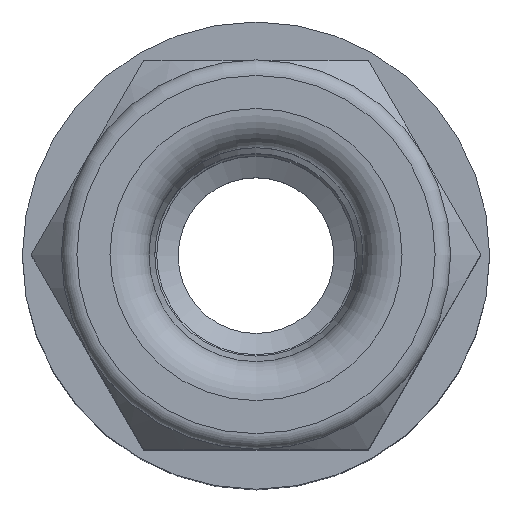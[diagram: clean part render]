
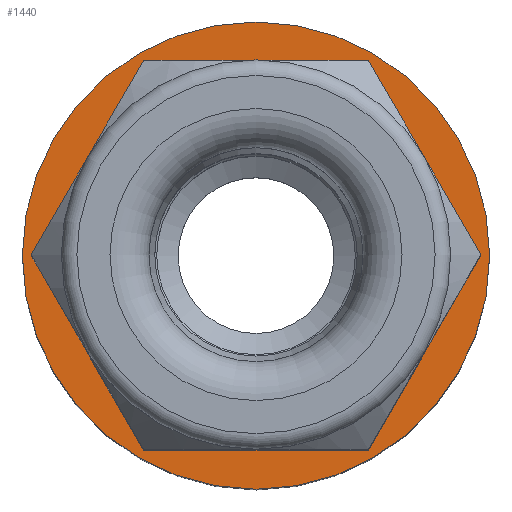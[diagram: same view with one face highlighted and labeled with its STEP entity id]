
A CAD part, top view. The second image highlights one B-rep face of the part: STEP entity #1440.
In plain terms, the highlighted planar face has unit normal (0, 0, 1).
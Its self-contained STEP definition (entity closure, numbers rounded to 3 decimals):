
#1440=ADVANCED_FACE('', (#1450,#1460), #1470, .T.);
#4730=AXIS2_PLACEMENT_3D('Ax2Pl3d', #4740, #4750, #4760);
#4770=AXIS2_PLACEMENT_3D('Ax2Pl3d', #4780, #4790, #4800);
#6420=CARTESIAN_POINT('', (4.385,14.304,12.269));
#6430=CARTESIAN_POINT('', (4.385,14.304,12.269));
#6440=CARTESIAN_POINT('', (1.498,9.304,12.269));
#6520=CARTESIAN_POINT('', (10.158,14.304,12.269));
#6530=CARTESIAN_POINT('', (10.158,14.304,12.269));
#6550=CARTESIAN_POINT('', (13.045,9.304,12.269));
#6560=CARTESIAN_POINT('', (13.045,9.304,12.269));
#6580=CARTESIAN_POINT('', (10.158,4.304,12.269));
#6590=CARTESIAN_POINT('', (10.158,4.304,12.269));
#6610=CARTESIAN_POINT('', (4.385,4.304,12.269));
#6620=CARTESIAN_POINT('', (4.385,4.304,12.269));
#6630=CARTESIAN_POINT('', (1.498,9.304,12.269));
#4740=CARTESIAN_POINT('HicPkt', (7.272,15.304,
12.269));
#4780=CARTESIAN_POINT('HicPkt', (7.272,9.304,
12.269));
#6640=CARTESIAN_POINT('', (7.272,15.304,12.269));
#7090=CIRCLE('Circle', #4770, 6.);
#9530=DIRECTION('', (0.5,0.866,0.));
#9560=DIRECTION('', (1.,0.,0.));
#9580=DIRECTION('', (0.5,-0.866,0.));
#9600=DIRECTION('', (-0.5,-0.866,0.));
#9620=DIRECTION('', (-1.,0.,0.));
#9630=DIRECTION('', (-0.5,0.866,0.));
#4750=DIRECTION('Axis', (0.,0.,1.));
#4760=DIRECTION('RefDirection', (1.,0.,-0.));
#4790=DIRECTION('Axis', (0.,0.,1.));
#4800=DIRECTION('RefDirection', (1.,0.,-0.));
#10300=EDGE_CURVE('', #10310, #10280, #10320, .T.);
#10490=EDGE_CURVE('', #10280, #10470, #10500, .T.);
#10540=EDGE_CURVE('', #10470, #10520, #10550, .T.);
#10590=EDGE_CURVE('', #10520, #10570, #10600, .T.);
#10640=EDGE_CURVE('', #10570, #10620, #10650, .T.);
#10660=EDGE_CURVE('', #10620, #10310, #10670, .T.);
#10680=EDGE_CURVE('', #10690, #10690, #7090, .T.);
#12330=EDGE_LOOP('Edge_loop', (#12340));
#12350=EDGE_LOOP('Edge_loop', (#12360,#12370,#12380,#12390,#12400,
#12410));
#1460=FACE_BOUND('', #12350, .T.);
#1450=FACE_OUTER_BOUND('Face_outer_bound', #12330, .T.);
#10320=LINE('Line', #6430, #13330);
#10500=LINE('Line', #6530, #13360);
#10550=LINE('Line', #6560, #13380);
#10600=LINE('Line', #6590, #13400);
#10650=LINE('Line', #6620, #13420);
#10670=LINE('Line', #6630, #13430);
#12340=ORIENTED_EDGE('', *, *, #10680, .T.);
#12360=ORIENTED_EDGE('', *, *, #10660, .T.);
#12370=ORIENTED_EDGE('', *, *, #10300, .T.);
#12380=ORIENTED_EDGE('', *, *, #10490, .T.);
#12390=ORIENTED_EDGE('', *, *, #10540, .T.);
#12400=ORIENTED_EDGE('', *, *, #10590, .T.);
#12410=ORIENTED_EDGE('', *, *, #10640, .T.);
#1470=PLANE('Plane', #4730);
#13330=VECTOR('', #9530, 5.774);
#13360=VECTOR('', #9560, 5.774);
#13380=VECTOR('', #9580, 5.774);
#13400=VECTOR('', #9600, 5.774);
#13420=VECTOR('', #9620, 5.774);
#13430=VECTOR('', #9630, 5.774);
#10280=VERTEX_POINT('', #6420);
#10310=VERTEX_POINT('', #6440);
#10470=VERTEX_POINT('', #6520);
#10520=VERTEX_POINT('', #6550);
#10570=VERTEX_POINT('', #6580);
#10620=VERTEX_POINT('', #6610);
#10690=VERTEX_POINT('', #6640);
